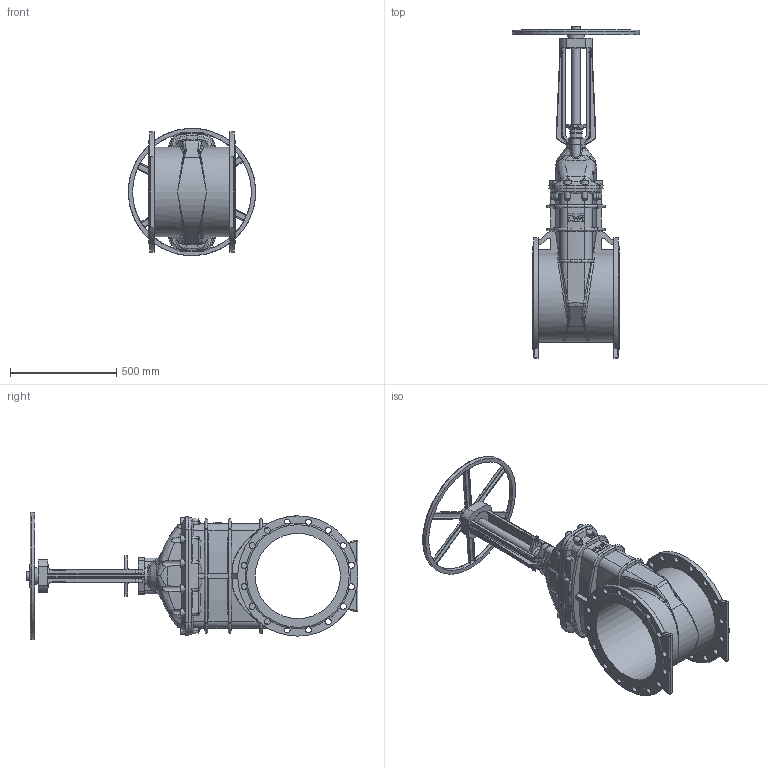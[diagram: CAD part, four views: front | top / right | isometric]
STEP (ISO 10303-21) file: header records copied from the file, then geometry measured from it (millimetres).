
FILE_DESCRIPTION (( 'STEP AP203' ), '1' );
FILE_NAME ('O_21_34_DN400_40XXXXX close_AA0.step', '2020-02-12T09:50:02', ( 'Windows User' ), ( 'AVK' ), 'SwSTEP 2.0', 'SolidWorks 2012', '' );
FILE_SCHEMA (( 'CONFIG_CONTROL_DESIGN' ));
Products named in the file (1): O_21_34_DN400_40XXXXX close_AA0
Bounding box: 598.51 x 1559.5 x 598.51 mm (x, y, z)
Volume: 59746276.7 mm3; surface area: 3099641.5 mm2
Topology: 1 solids, 1 shells, 792 faces, 2228 edges, 1395 vertices
Faces by surface type: bspline 213, plane 204, cylinder 198, cone 124, torus 49, sphere 4
Full cylindrical faces by diameter (mm): 28 x32, 40 x2, 55.9 x1, 60 x1, 64 x1, 77 x1, 105 x1, 400 x1, 565 x2
Entity records: 39506 total; most frequent: CARTESIAN_POINT 21801, ORIENTED_EDGE 4224, DIRECTION 2964, EDGE_CURVE 2112, VERTEX_POINT 1350, AXIS2_PLACEMENT_3D 1212, EDGE_LOOP 906, FACE_OUTER_BOUND 837
